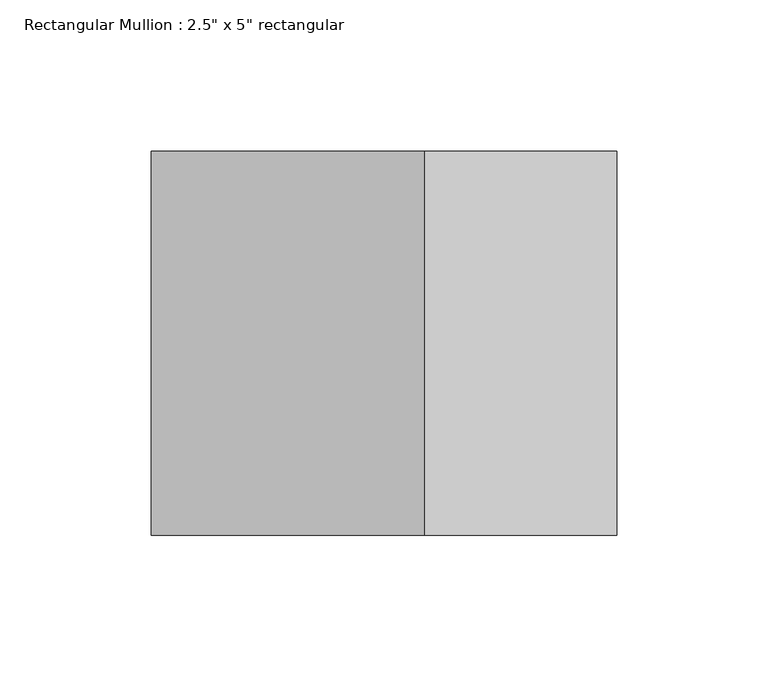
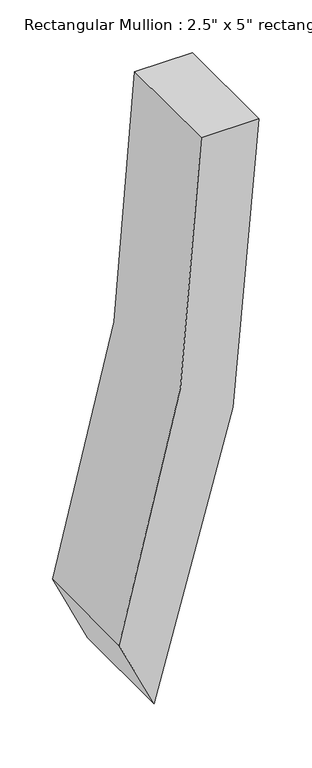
"""IFC4 building model written with IfcOpenShell, lengths in millimetres: member geometry."""

from ifc_helpers import new_model, si_unit, point, frame, frame_2d, origin, place, context, project, spatial, polyline, circle_curve, trimmed, segment, composite_curve, outline, extrude, source, transform, mapped, element, save


def member_b7f7ac7a(model_context):
    return source(origin(), model_context, "Body", "SweptSolid", [
        extrude(outline(composite_curve([segment(trimmed(circle_curve(frame_2d((0.0, -1828.8)), 1828.8), [point((-639.1884241, -115.3392918))], [point((0.0, 0.0))], False, "CARTESIAN"), True, "CONTINUOUS"), segment(polyline([(0.0, 0.0), (0.0, -63.5)]), True, "CONTINUOUS"), segment(trimmed(circle_curve(frame_2d((0.0, -1828.8)), 1765.3), [point((0.0, -63.5))], [point((-558.1280444, -154.0531009))], True, "CARTESIAN"), True, "CONTINUOUS"), segment(polyline([(-558.1280444, -154.0531009), (-639.1884241, -115.3392918)]), True, "CONTINUOUS")], self_intersect=False)), frame((0.0, -63.5, 0.0), z_axis=(0.0, 1.0, 0.0), x_axis=(0.0, 0.0, 1.0)), (0.0, 0.0, 1.0), 127.0),
    ])


if __name__ == "__main__":
    model = new_model("IFC4")
    model_context = context("Model", 3, world=origin())
    ifc_project = project(units=[si_unit("LENGTHUNIT", "METRE", prefix="MILLI")], contexts=[model_context])
    site = spatial("IfcSite", under=ifc_project)
    building = spatial("IfcBuilding", under=site)
    placement = place(None, origin())
    member_shape = member_b7f7ac7a(model_context)
    element("IfcMember", 1, ObjectType="Rectangular Mullion : 2.5\" x 5\" rectangular", at=placement, inside=building, context=model_context, shape_type="MappedRepresentation", body=[
        mapped(member_shape, transform((0.0, 0.0, 0.0), x_axis=(1.0, 0.0, 0.0), y_axis=(0.0, 1.0, 0.0), z_axis=(0.0, 0.0, 1.0))),
    ])
    save(model, "model.ifc")
